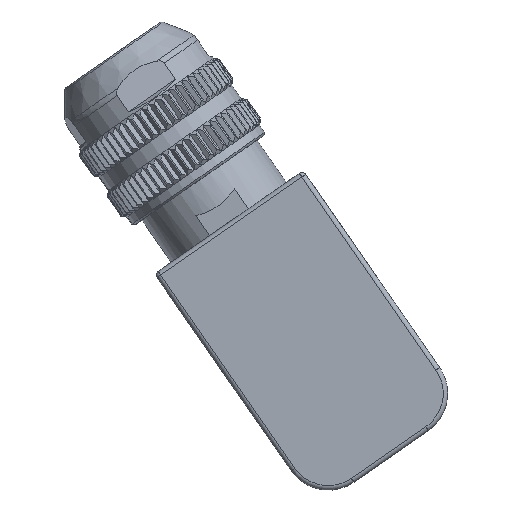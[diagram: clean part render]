
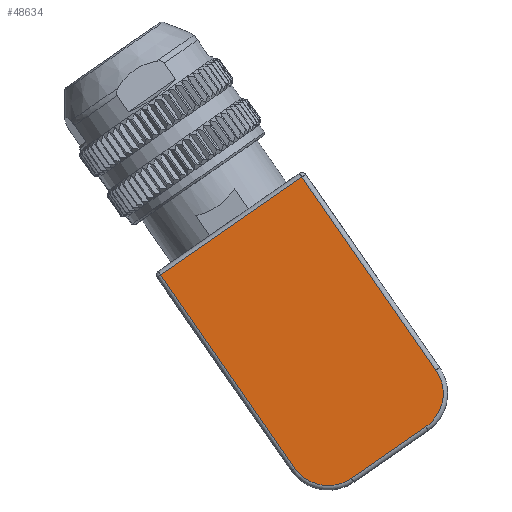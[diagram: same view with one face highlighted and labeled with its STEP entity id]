
A CAD part, left-side view. The second image highlights one B-rep face of the part: STEP entity #48634.
In plain terms, the highlighted planar face has unit normal (-1, 0, 0).
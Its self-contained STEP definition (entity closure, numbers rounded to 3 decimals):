
#1636 = CARTESIAN_POINT ( 'NONE',  ( -25.219, 3.643, 15.221 ) ) ;
#1804 = DIRECTION ( 'NONE',  ( 0., -0.57, -0.822 ) ) ;
#2216 = ORIENTED_EDGE ( 'NONE', *, *, #43713, .T. ) ;
#3005 = CARTESIAN_POINT ( 'NONE',  ( -25.219, 30.79, 28.029 ) ) ;
#3314 = VECTOR ( 'NONE', #27317, 1000. ) ;
#3513 = EDGE_CURVE ( 'NONE', #3589, #14860, #5033, .T. ) ;
#3589 = VERTEX_POINT ( 'NONE', #4666 ) ;
#4397 = VECTOR ( 'NONE', #6934, 1000. ) ;
#4666 = CARTESIAN_POINT ( 'NONE',  ( -25.219, 30.379, 28.315 ) ) ;
#5033 = LINE ( 'NONE', #7400, #4397 ) ;
#5878 = CARTESIAN_POINT ( 'NONE',  ( -25.219, -0.054, 17.787 ) ) ;
#6934 = DIRECTION ( 'NONE',  ( 0., -0.57, -0.822 ) ) ;
#7400 = CARTESIAN_POINT ( 'NONE',  ( -25.219, 15.556, 6.954 ) ) ;
#10212 = CARTESIAN_POINT ( 'NONE',  ( -25.219, 15.055, 39.558 ) ) ;
#11549 = ORIENTED_EDGE ( 'NONE', *, *, #3513, .T. ) ;
#13511 = VERTEX_POINT ( 'NONE', #5878 ) ;
#13917 = VERTEX_POINT ( 'NONE', #48511 ) ;
#13949 = DIRECTION ( 'NONE',  ( 0., 0.57, 0.822 ) ) ;
#14581 = VECTOR ( 'NONE', #13949, 1000. ) ;
#14860 = VERTEX_POINT ( 'NONE', #47894 ) ;
#15189 = EDGE_CURVE ( 'NONE', #13917, #44257, #33632, .T. ) ;
#18396 = FACE_OUTER_BOUND ( 'NONE', #20422, .T. ) ;
#20196 = LINE ( 'NONE', #3005, #38503 ) ;
#20422 = EDGE_LOOP ( 'NONE', ( #33059, #25048, #23340, #11549, #2216, #26804 ) ) ;
#20856 = DIRECTION ( 'NONE',  ( 0., -0.57, -0.822 ) ) ;
#21434 = CIRCLE ( 'NONE', #35024, 4.5 ) ;
#22131 = AXIS2_PLACEMENT_3D ( 'NONE', #44657, #33096, #40767 ) ;
#22909 = CARTESIAN_POINT ( 'NONE',  ( -25.219, 1.078, 11.524 ) ) ;
#23340 = ORIENTED_EDGE ( 'NONE', *, *, #36482, .T. ) ;
#24947 = DIRECTION ( 'NONE',  ( -1., 0., 0. ) ) ;
#25048 = ORIENTED_EDGE ( 'NONE', *, *, #42467, .T. ) ;
#26001 = DIRECTION ( 'NONE',  ( 0., 0.822, -0.57 ) ) ;
#26804 = ORIENTED_EDGE ( 'NONE', *, *, #15189, .T. ) ;
#27317 = DIRECTION ( 'NONE',  ( 0., -0.822, 0.57 ) ) ;
#27844 = VERTEX_POINT ( 'NONE', #48037 ) ;
#29199 = CARTESIAN_POINT ( 'NONE',  ( -25.219, 16.873, 25.515 ) ) ;
#30430 = AXIS2_PLACEMENT_3D ( 'NONE', #29199, #48375, #20856 ) ;
#33059 = ORIENTED_EDGE ( 'NONE', *, *, #37504, .T. ) ;
#33096 = DIRECTION ( 'NONE',  ( -1., 0., 0. ) ) ;
#33632 = LINE ( 'NONE', #22909, #3314 ) ;
#35024 = AXIS2_PLACEMENT_3D ( 'NONE', #1636, #24947, #1804 ) ;
#36482 = EDGE_CURVE ( 'NONE', #27844, #3589, #20196, .T. ) ;
#37504 = EDGE_CURVE ( 'NONE', #44257, #13511, #21434, .T. ) ;
#38503 = VECTOR ( 'NONE', #26001, 1000. ) ;
#40682 = LINE ( 'NONE', #10212, #14581 ) ;
#40767 = DIRECTION ( 'NONE',  ( 0., -0.57, -0.822 ) ) ;
#41196 = CARTESIAN_POINT ( 'NONE',  ( -25.219, 1.078, 11.524 ) ) ;
#42467 = EDGE_CURVE ( 'NONE', #13511, #27844, #40682, .T. ) ;
#43713 = EDGE_CURVE ( 'NONE', #14860, #13917, #47881, .T. ) ;
#44257 = VERTEX_POINT ( 'NONE', #41196 ) ;
#44657 = CARTESIAN_POINT ( 'NONE',  ( -25.219, 11.859, 9.52 ) ) ;
#47881 = CIRCLE ( 'NONE', #22131, 4.5 ) ;
#47894 = CARTESIAN_POINT ( 'NONE',  ( -25.219, 15.556, 6.954 ) ) ;
#48026 = PLANE ( 'NONE',  #30430 ) ;
#48037 = CARTESIAN_POINT ( 'NONE',  ( -25.219, 14.77, 39.147 ) ) ;
#48375 = DIRECTION ( 'NONE',  ( -1., 0., 0. ) ) ;
#48511 = CARTESIAN_POINT ( 'NONE',  ( -25.219, 9.293, 5.823 ) ) ;
#48634 = ADVANCED_FACE ( 'NONE', ( #18396 ), #48026, .T. ) ;
